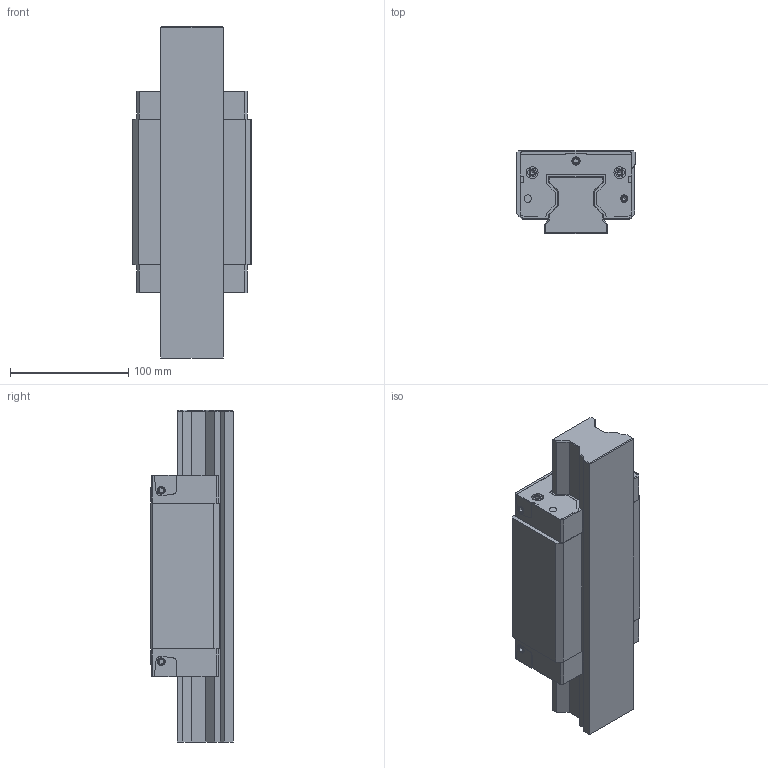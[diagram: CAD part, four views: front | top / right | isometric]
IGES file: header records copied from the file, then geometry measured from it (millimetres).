
Start section: 3D InterOp IGES (v. 2019 1.0.2), Spatial Corp. Copyright (c) 1999-2017.
Global section: file name: R1822_size55.igs; native system: Spatial Corp.; preprocessor: 3D InterOp GENERIC/IGES 3.0; author: Noname; organization: Noname; date: 20220630.112857; units: millimetre
Bounding box: 100 x 70 x 280.65 mm (x, y, z)
Surface area: 187717.3 mm2 (no closed solid volume)
Topology: 0 solids, 0 shells, 540 faces, 2892 edges, 2860 vertices
Faces by surface type: extrusion 328, revolution 212
